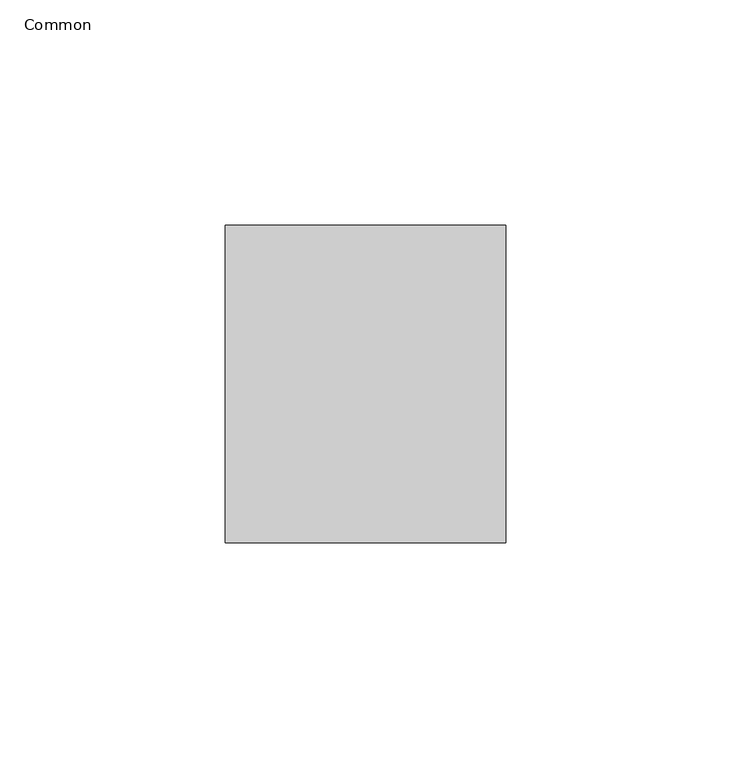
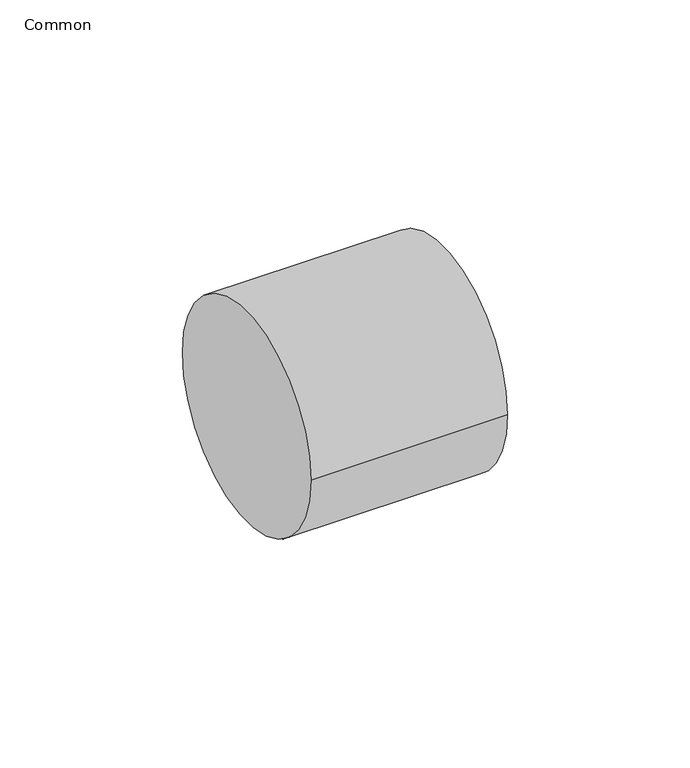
"""IFC4 building model written with IfcOpenShell, lengths in millimetres: pipe fitting geometry, 071_キャップ : Common."""

from ifc_helpers import new_model, si_unit, point, frame, origin, origin_2d, place, context, project, spatial, circle_curve, trimmed, segment, composite_curve, outline, extrude, source, transform, mapped, element, save


def common_2263acef(model_context):
    return source(origin(), model_context, "Body", "SweptSolid", [
        extrude(outline(composite_curve([segment(trimmed(circle_curve(origin_2d(), 35.2), [point((-35.2, 0.0))], [point((35.2, 0.0))], False, "CARTESIAN"), True, "CONTINUOUS"), segment(trimmed(circle_curve(origin_2d(), 35.2), [point((35.2, 0.0))], [point((-35.2, 0.0))], False, "CARTESIAN"), True, "CONTINUOUS")], self_intersect=False)), frame((0.0, 0.0, 0.0), z_axis=(1.0, 0.0, 0.0), x_axis=(0.0, 1.0, 0.0)), (0.0, 0.0, 1.0), 62.2),
    ])


if __name__ == "__main__":
    model = new_model("IFC4")
    model_context = context("Model", 3, world=origin())
    ifc_project = project(units=[si_unit("LENGTHUNIT", "METRE", prefix="MILLI")], contexts=[model_context])
    site = spatial("IfcSite", under=ifc_project)
    building = spatial("IfcBuilding", under=site)
    placement = place(None, origin())
    common_shape = common_2263acef(model_context)
    element("IfcPipeFitting", 1, ObjectType="071_キャップ : Common", at=placement, inside=building, context=model_context, shape_type="MappedRepresentation", body=[
        mapped(common_shape, transform((0.0, 0.0, 0.0), x_axis=(1.0, 0.0, 0.0), y_axis=(0.0, 1.0, 0.0), z_axis=(0.0, 0.0, 1.0))),
    ])
    save(model, "model.ifc")
